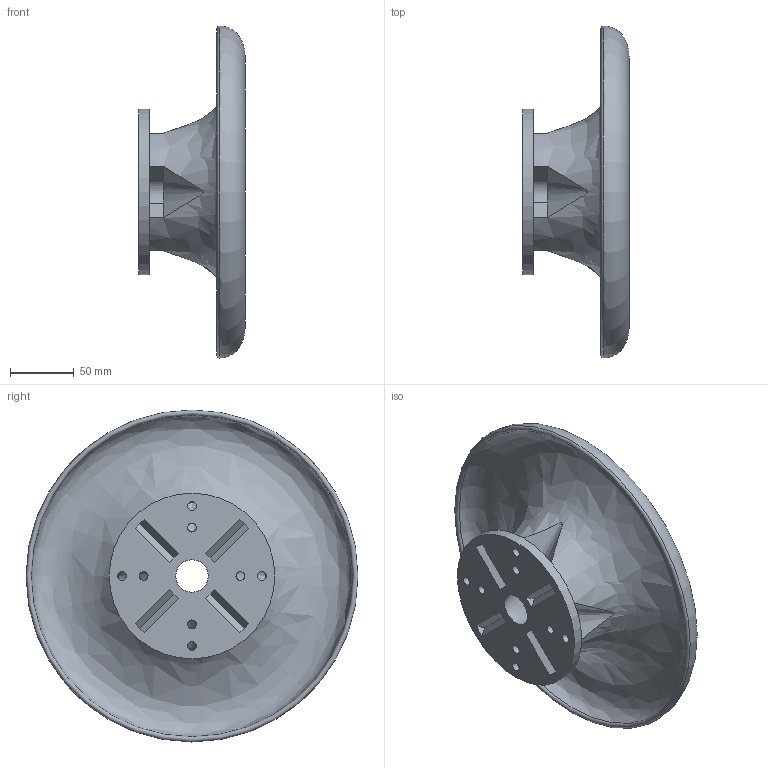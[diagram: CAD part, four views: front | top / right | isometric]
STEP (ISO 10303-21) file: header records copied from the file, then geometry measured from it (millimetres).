
FILE_DESCRIPTION(/* description */ (''),/* implementation_level */ '2;1');
FILE_NAME(/* name */ 'D:/ST260-19-4H-PETALS v8.step',/* time_stamp */ '2021-08-09T07:09:36+02:00',/* author */ (''),/* organization */ (''),/* preprocessor_version */ 'ST-DEVELOPER v18.1',/* originating_system */ 'Autodesk Translation Framework v10.9.0.1377',/* authorisation */ '');
FILE_SCHEMA (('AUTOMOTIVE_DESIGN { 1 0 10303 214 3 1 1 }'));
Length unit declared in the file: millimetre
Products named in the file (1): ST260-19-4H-PETALS
Bounding box: 83.23 x 260.41 x 260.41 mm (x, y, z)
Volume: 563083.2 mm3; surface area: 167491.5 mm2
Topology: 1 solids, 1 shells, 46 faces, 120 edges, 80 vertices
Faces by surface type: plane 26, cylinder 13, bspline 6, torus 1
Full cylindrical faces by diameter (mm): 7 x8, 129.893 x1
Entity records: 5066 total; most frequent: CARTESIAN_POINT 3876, ORIENTED_EDGE 240, DIRECTION 223, EDGE_CURVE 120, VERTEX_POINT 80, AXIS2_PLACEMENT_3D 77, LINE 69, VECTOR 69
